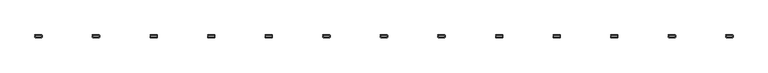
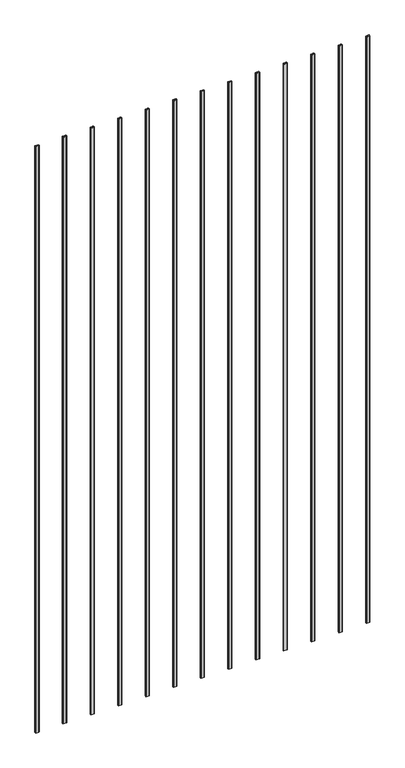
"""IFC4 building model written with IfcOpenShell, lengths in millimetres: fastener geometry, Knight-Wall-Systems_CI-Girt : CI-Girt™ (STANDARD)."""

import ifcopenshell
import ifcopenshell.guid

model = None  # the IFC model being written
_history = None  # IfcOwnerHistory: only IFC2X3 demands one
_inside = {}  # id of a spatial element -> (the spatial element, [elements in it])
_under = {}  # id of a project, library or spatial element -> (it, [spatial elements below it])
_declared = {}  # id of a project -> (the project, [libraries it declares])
_typed = {}  # id of a type object -> (the type object, [elements of that type])
_made_of = {}  # id of a material, layer set ... -> (it, [elements and type objects made of it])


def new_model(schema):
    """Start an empty IFC model of exactly this schema.

    Asked for "IFC4X3", IfcOpenShell would pick the latest addendum, in which some entities
    have other attributes; the version numbers below select the first issue.
    IFC2X3 requires an IfcOwnerHistory on every rooted entity: one is made here for all.
    """
    global model, _history
    if schema == "IFC4X3":
        model = ifcopenshell.file(schema_version=(4, 3, 0, 0))
    else:
        model = ifcopenshell.file(schema=schema)
    _inside.clear()
    _under.clear()
    _declared.clear()
    _typed.clear()
    _made_of.clear()
    _history = None
    if model.schema == "IFC2X3":
        org = make("IfcOrganization", Name="unknown")
        user = make(
            "IfcPersonAndOrganization",
            ThePerson=make("IfcPerson", FamilyName="unknown"),
            TheOrganization=org,
        )
        app = make(
            "IfcApplication",
            ApplicationDeveloper=org,
            Version="unknown",
            ApplicationFullName="unknown",
            ApplicationIdentifier="unknown",
        )
        _history = make(
            "IfcOwnerHistory",
            OwningUser=user,
            OwningApplication=app,
            ChangeAction="ADDED",
            CreationDate=0,
        )
    return model


def make(cls, **values):
    """One entity of the class cls with the attributes given. An attribute that is None is left unset."""
    return model.create_entity(
        cls, **{name: value for name, value in values.items() if value is not None}
    )


def rooted(cls, **values):
    """An entity with a GlobalId (a new one), such as an element, a storey or a relation."""
    return make(cls, GlobalId=ifcopenshell.guid.new(), OwnerHistory=_history, **values)


def si_unit(unit_type, name, prefix=None):
    """IfcSIUnit, for example si_unit("LENGTHUNIT", "METRE", prefix="MILLI")."""
    return make("IfcSIUnit", UnitType=unit_type, Prefix=prefix, Name=name)


def assignment(units):
    """IfcUnitAssignment: the units of a project."""
    return None if units is None else make("IfcUnitAssignment", Units=units)


def point(xyz):
    """IfcCartesianPoint."""
    return None if xyz is None else make("IfcCartesianPoint", Coordinates=xyz)


def direction(xyz):
    """IfcDirection."""
    return None if xyz is None else make("IfcDirection", DirectionRatios=xyz)


def frame(location, z_axis=None, x_axis=None):
    """IfcAxis2Placement3D, a coordinate frame: its origin and axes. An axis left out is left unset."""
    return make(
        "IfcAxis2Placement3D",
        Location=point(location),
        Axis=direction(z_axis),
        RefDirection=direction(x_axis),
    )


def frame_2d(location, x_axis=None):
    """IfcAxis2Placement2D, a coordinate frame in the plane: its origin and x axis."""
    return make(
        "IfcAxis2Placement2D", Location=point(location), RefDirection=direction(x_axis)
    )


def origin():
    """The frame at (0, 0, 0) with its axes left unset."""
    return frame((0.0, 0.0, 0.0))


def origin_with_axes():
    """The frame at (0, 0, 0) with the z axis (0, 0, 1) and the x axis (1, 0, 0) written out."""
    return frame((0.0, 0.0, 0.0), z_axis=(0.0, 0.0, 1.0), x_axis=(1.0, 0.0, 0.0))


def place(relative_to, where):
    """IfcLocalPlacement: puts the frame where relative to a parent placement (None: the world)."""
    return make(
        "IfcLocalPlacement", PlacementRelTo=relative_to, RelativePlacement=where
    )


def context(
    kind, dimensions, precision=None, world=None, true_north=None, identifier=None
):
    """IfcGeometricRepresentationContext, for example the 3D "Model" context."""
    return make(
        "IfcGeometricRepresentationContext",
        ContextIdentifier=identifier,
        ContextType=kind,
        CoordinateSpaceDimension=dimensions,
        Precision=precision,
        WorldCoordinateSystem=world,
        TrueNorth=true_north,
    )


def project(units=None, contexts=None):
    """IfcProject with its units and contexts."""
    return rooted(
        "IfcProject",
        Name="project",
        RepresentationContexts=contexts,
        UnitsInContext=assignment(units),
    )


def spatial(cls, under=None, at=None, **own):
    """A site, building, storey or space (cls), placed at a placement, below another one or the project."""
    s = rooted(cls, ObjectPlacement=at, **own)
    if under is not None:
        _under.setdefault(under.id(), (under, []))[1].append(s)
    return s


def polyline(points):
    """IfcPolyline through the points."""
    return make("IfcPolyline", Points=[point(p) for p in points])


def circle_curve(where, radius):
    """IfcCircle in the frame where."""
    return make("IfcCircle", Position=where, Radius=radius)


def trimmed(basis, trim1, trim2, sense, master):
    """IfcTrimmedCurve: the piece of a basis curve between two trims."""
    return make(
        "IfcTrimmedCurve",
        BasisCurve=basis,
        Trim1=trim1,
        Trim2=trim2,
        SenseAgreement=sense,
        MasterRepresentation=master,
    )


def segment(curve, same_sense, transition):
    """IfcCompositeCurveSegment."""
    return make(
        "IfcCompositeCurveSegment",
        Transition=transition,
        SameSense=same_sense,
        ParentCurve=curve,
    )


def composite_curve(segments, self_intersect=None):
    """IfcCompositeCurve: segments joined end to end."""
    return make("IfcCompositeCurve", Segments=segments, SelfIntersect=self_intersect)


def outline(outer, holes=None, kind="AREA"):
    """IfcArbitraryClosedProfileDef: a profile drawn as a closed curve; with holes, ...WithVoids."""
    if holes is None:
        return make("IfcArbitraryClosedProfileDef", ProfileType=kind, OuterCurve=outer)
    return make(
        "IfcArbitraryProfileDefWithVoids",
        ProfileType=kind,
        OuterCurve=outer,
        InnerCurves=holes,
    )


def extrude(swept, where, along, depth):
    """IfcExtrudedAreaSolid: the profile swept, set in the frame where, extruded along a direction by depth."""
    return make(
        "IfcExtrudedAreaSolid",
        SweptArea=swept,
        Position=where,
        ExtrudedDirection=direction(along),
        Depth=depth,
    )


def shape(context_of_items, identifier, shape_type, items):
    """IfcShapeRepresentation: the items that make up one representation, for example the "Body"."""
    return make(
        "IfcShapeRepresentation",
        ContextOfItems=context_of_items,
        RepresentationIdentifier=identifier,
        RepresentationType=shape_type,
        Items=items,
    )


def source(mapping_origin, context_of_items, identifier, shape_type, items):
    """IfcRepresentationMap: a shape defined once, which mapped items show again and again."""
    return make(
        "IfcRepresentationMap",
        MappingOrigin=mapping_origin,
        MappedRepresentation=shape(context_of_items, identifier, shape_type, items),
    )


def transform(
    local_origin,
    x_axis=None,
    y_axis=None,
    z_axis=None,
    scale=None,
    scale2=None,
    scale3=None,
    uniform=True,
):
    """IfcCartesianTransformationOperator3D, or its non-uniform kind. x_axis, y_axis, z_axis: its Axis1, 2, 3."""
    if uniform:
        return make(
            "IfcCartesianTransformationOperator3D",
            Axis1=direction(x_axis),
            Axis2=direction(y_axis),
            LocalOrigin=point(local_origin),
            Scale=scale,
            Axis3=direction(z_axis),
        )
    return make(
        "IfcCartesianTransformationOperator3DnonUniform",
        Axis1=direction(x_axis),
        Axis2=direction(y_axis),
        LocalOrigin=point(local_origin),
        Scale=scale,
        Axis3=direction(z_axis),
        Scale2=scale2,
        Scale3=scale3,
    )


def mapped(mapping_source, mapping_target):
    """IfcMappedItem: shows the shape of a source again, moved by a transform."""
    return make(
        "IfcMappedItem", MappingSource=mapping_source, MappingTarget=mapping_target
    )


def made_of(thing, what):
    """Note that an element or type object is made of a material, layer set ...; save() writes the relation."""
    if what is not None:
        _made_of.setdefault(what.id(), (what, []))[1].append(thing)
    return thing


def element(
    cls,
    number,
    at=None,
    inside=None,
    cuts=None,
    type_object=None,
    material=None,
    context=None,
    identifier="Body",
    shape_type=None,
    held_by="IfcProductDefinitionShape",
    body=None,
    shapes=None,
    **own,
):
    """One element of the class cls, such as IfcWall. Its Tag is "e" and its number.

    at: its placement. inside: the storey or other place that contains it. cuts: it is an
    opening in that element (IfcRelVoidsElement). A single representation is given by context,
    identifier, shape_type and body (its items); several are given by shapes. held_by: the class
    of the entity that holds the representations. save() writes the other relations.
    """
    e = rooted(cls, Tag="e%d" % number, ObjectPlacement=at, **own)
    if body is not None:
        shapes = [shape(context, identifier, shape_type, body)]
    if shapes is not None:
        e.Representation = make(held_by, Representations=shapes)
    if inside is not None:
        _inside.setdefault(inside.id(), (inside, []))[1].append(e)
    if cuts is not None:
        rooted(
            "IfcRelVoidsElement", RelatingBuildingElement=cuts, RelatedOpeningElement=e
        )
    if type_object is not None:
        _typed.setdefault(type_object.id(), (type_object, []))[1].append(e)
    return made_of(e, material)


def aggregate(whole, parts):
    """IfcRelAggregates: a whole, such as a stair, and the parts it consists of."""
    return rooted("IfcRelAggregates", RelatingObject=whole, RelatedObjects=parts)


def save(model, path):
    """Write the relations noted so far, then the file.

    IfcRelAggregates (storeys below a building ...), IfcRelContainedInSpatialStructure (elements
    in a storey), IfcRelDefinesByType, IfcRelAssociatesMaterial and IfcRelDeclares: one each for
    every whole, place, type object, material and project.
    """
    for whole, parts in _under.values():
        aggregate(whole, parts)
    for where, things in _inside.values():
        rooted(
            "IfcRelContainedInSpatialStructure",
            RelatedElements=things,
            RelatingStructure=where,
        )
    for kind, things in _typed.values():
        rooted("IfcRelDefinesByType", RelatedObjects=things, RelatingType=kind)
    for what, things in _made_of.values():
        rooted("IfcRelAssociatesMaterial", RelatedObjects=things, RelatingMaterial=what)
    for by, libraries in _declared.values():
        rooted("IfcRelDeclares", RelatingContext=by, RelatedDefinitions=libraries)
    model.write(path)


def fastener_92f4360e(model_context):
    return source(origin(), model_context, "Body", "SweptSolid", [
        extrude(outline(composite_curve([segment(trimmed(circle_curve(frame_2d((4518.025, 3.175)), 3.175), [point((4521.2, 3.175))], [point((4518.025, 0.0))], False, "CARTESIAN"), True, "CONTINUOUS"), segment(polyline([(4518.025, 0.0), (4473.575, 0.0)]), True, "CONTINUOUS"), segment(trimmed(circle_curve(frame_2d((4473.575, 3.175)), 3.175), [point((4473.575, 0.0))], [point((4470.4, 3.175))], False, "CARTESIAN"), True, "CONTINUOUS"), segment(polyline([(4470.4, 3.175), (4470.4, 9.525), (4471.9875, 9.525), (4471.9875, 3.175)]), True, "CONTINUOUS"), segment(trimmed(circle_curve(frame_2d((4473.575, 3.175)), 1.5875), [point((4471.9875, 3.175))], [point((4473.575, 1.5875))], True, "CARTESIAN"), True, "CONTINUOUS"), segment(polyline([(4473.575, 1.5875), (4518.025, 1.5875)]), True, "CONTINUOUS"), segment(trimmed(circle_curve(frame_2d((4518.025, 3.175)), 1.5875), [point((4518.025, 1.5875))], [point((4519.6125, 3.175))], True, "CARTESIAN"), True, "CONTINUOUS"), segment(polyline([(4519.6125, 3.175), (4519.6125, 15.875)]), True, "CONTINUOUS"), segment(trimmed(circle_curve(frame_2d((4518.025, 15.875)), 1.5875), [point((4519.6125, 15.875))], [point((4518.025, 17.4625))], True, "CARTESIAN"), True, "CONTINUOUS"), segment(polyline([(4518.025, 17.4625), (4470.4, 17.4625), (4470.4, 19.05), (4518.025, 19.05)]), True, "CONTINUOUS"), segment(trimmed(circle_curve(frame_2d((4518.025, 15.875)), 3.175), [point((4518.025, 19.05))], [point((4521.2, 15.875))], False, "CARTESIAN"), True, "CONTINUOUS"), segment(polyline([(4521.2, 15.875), (4521.2, 3.175)]), True, "CONTINUOUS")], self_intersect=False)), origin_with_axes(), (0.0, 0.0, 1.0), 9144.0),
        extrude(outline(composite_curve([segment(trimmed(circle_curve(frame_2d((4111.625, 3.175)), 3.175), [point((4114.8, 3.175))], [point((4111.625, 0.0))], False, "CARTESIAN"), True, "CONTINUOUS"), segment(polyline([(4111.625, 0.0), (4067.175, 0.0)]), True, "CONTINUOUS"), segment(trimmed(circle_curve(frame_2d((4067.175, 3.175)), 3.175), [point((4067.175, 0.0))], [point((4064.0, 3.175))], False, "CARTESIAN"), True, "CONTINUOUS"), segment(polyline([(4064.0, 3.175), (4064.0, 9.525), (4065.5875, 9.525), (4065.5875, 3.175)]), True, "CONTINUOUS"), segment(trimmed(circle_curve(frame_2d((4067.175, 3.175)), 1.5875), [point((4065.5875, 3.175))], [point((4067.175, 1.5875))], True, "CARTESIAN"), True, "CONTINUOUS"), segment(polyline([(4067.175, 1.5875), (4111.625, 1.5875)]), True, "CONTINUOUS"), segment(trimmed(circle_curve(frame_2d((4111.625, 3.175)), 1.5875), [point((4111.625, 1.5875))], [point((4113.2125, 3.175))], True, "CARTESIAN"), True, "CONTINUOUS"), segment(polyline([(4113.2125, 3.175), (4113.2125, 15.875)]), True, "CONTINUOUS"), segment(trimmed(circle_curve(frame_2d((4111.625, 15.875)), 1.5875), [point((4113.2125, 15.875))], [point((4111.625, 17.4625))], True, "CARTESIAN"), True, "CONTINUOUS"), segment(polyline([(4111.625, 17.4625), (4064.0, 17.4625), (4064.0, 19.05), (4111.625, 19.05)]), True, "CONTINUOUS"), segment(trimmed(circle_curve(frame_2d((4111.625, 15.875)), 3.175), [point((4111.625, 19.05))], [point((4114.8, 15.875))], False, "CARTESIAN"), True, "CONTINUOUS"), segment(polyline([(4114.8, 15.875), (4114.8, 3.175)]), True, "CONTINUOUS")], self_intersect=False)), origin_with_axes(), (0.0, 0.0, 1.0), 9144.0),
        extrude(outline(composite_curve([segment(trimmed(circle_curve(frame_2d((3705.225, 3.175)), 3.175), [point((3708.4, 3.175))], [point((3705.225, 0.0))], False, "CARTESIAN"), True, "CONTINUOUS"), segment(polyline([(3705.225, 0.0), (3660.775, 0.0)]), True, "CONTINUOUS"), segment(trimmed(circle_curve(frame_2d((3660.775, 3.175)), 3.175), [point((3660.775, 0.0))], [point((3657.6, 3.175))], False, "CARTESIAN"), True, "CONTINUOUS"), segment(polyline([(3657.6, 3.175), (3657.6, 9.525), (3659.1875, 9.525), (3659.1875, 3.175)]), True, "CONTINUOUS"), segment(trimmed(circle_curve(frame_2d((3660.775, 3.175)), 1.5875), [point((3659.1875, 3.175))], [point((3660.775, 1.5875))], True, "CARTESIAN"), True, "CONTINUOUS"), segment(polyline([(3660.775, 1.5875), (3705.225, 1.5875)]), True, "CONTINUOUS"), segment(trimmed(circle_curve(frame_2d((3705.225, 3.175)), 1.5875), [point((3705.225, 1.5875))], [point((3706.8125, 3.175))], True, "CARTESIAN"), True, "CONTINUOUS"), segment(polyline([(3706.8125, 3.175), (3706.8125, 15.875)]), True, "CONTINUOUS"), segment(trimmed(circle_curve(frame_2d((3705.225, 15.875)), 1.5875), [point((3706.8125, 15.875))], [point((3705.225, 17.4625))], True, "CARTESIAN"), True, "CONTINUOUS"), segment(polyline([(3705.225, 17.4625), (3657.6, 17.4625), (3657.6, 19.05), (3705.225, 19.05)]), True, "CONTINUOUS"), segment(trimmed(circle_curve(frame_2d((3705.225, 15.875)), 3.175), [point((3705.225, 19.05))], [point((3708.4, 15.875))], False, "CARTESIAN"), True, "CONTINUOUS"), segment(polyline([(3708.4, 15.875), (3708.4, 3.175)]), True, "CONTINUOUS")], self_intersect=False)), origin_with_axes(), (0.0, 0.0, 1.0), 9144.0),
        extrude(outline(composite_curve([segment(trimmed(circle_curve(frame_2d((3298.825, 3.175)), 3.175), [point((3302.0, 3.175))], [point((3298.825, 0.0))], False, "CARTESIAN"), True, "CONTINUOUS"), segment(polyline([(3298.825, 0.0), (3254.375, 0.0)]), True, "CONTINUOUS"), segment(trimmed(circle_curve(frame_2d((3254.375, 3.175)), 3.175), [point((3254.375, 0.0))], [point((3251.2, 3.175))], False, "CARTESIAN"), True, "CONTINUOUS"), segment(polyline([(3251.2, 3.175), (3251.2, 9.525), (3252.7875, 9.525), (3252.7875, 3.175)]), True, "CONTINUOUS"), segment(trimmed(circle_curve(frame_2d((3254.375, 3.175)), 1.5875), [point((3252.7875, 3.175))], [point((3254.375, 1.5875))], True, "CARTESIAN"), True, "CONTINUOUS"), segment(polyline([(3254.375, 1.5875), (3298.825, 1.5875)]), True, "CONTINUOUS"), segment(trimmed(circle_curve(frame_2d((3298.825, 3.175)), 1.5875), [point((3298.825, 1.5875))], [point((3300.4125, 3.175))], True, "CARTESIAN"), True, "CONTINUOUS"), segment(polyline([(3300.4125, 3.175), (3300.4125, 15.875)]), True, "CONTINUOUS"), segment(trimmed(circle_curve(frame_2d((3298.825, 15.875)), 1.5875), [point((3300.4125, 15.875))], [point((3298.825, 17.4625))], True, "CARTESIAN"), True, "CONTINUOUS"), segment(polyline([(3298.825, 17.4625), (3251.2, 17.4625), (3251.2, 19.05), (3298.825, 19.05)]), True, "CONTINUOUS"), segment(trimmed(circle_curve(frame_2d((3298.825, 15.875)), 3.175), [point((3298.825, 19.05))], [point((3302.0, 15.875))], False, "CARTESIAN"), True, "CONTINUOUS"), segment(polyline([(3302.0, 15.875), (3302.0, 3.175)]), True, "CONTINUOUS")], self_intersect=False)), origin_with_axes(), (0.0, 0.0, 1.0), 9144.0),
        extrude(outline(composite_curve([segment(trimmed(circle_curve(frame_2d((2892.425, 3.175)), 3.175), [point((2895.6, 3.175))], [point((2892.425, 0.0))], False, "CARTESIAN"), True, "CONTINUOUS"), segment(polyline([(2892.425, 0.0), (2847.975, 0.0)]), True, "CONTINUOUS"), segment(trimmed(circle_curve(frame_2d((2847.975, 3.175)), 3.175), [point((2847.975, 0.0))], [point((2844.8, 3.175))], False, "CARTESIAN"), True, "CONTINUOUS"), segment(polyline([(2844.8, 3.175), (2844.8, 9.525), (2846.3875, 9.525), (2846.3875, 3.175)]), True, "CONTINUOUS"), segment(trimmed(circle_curve(frame_2d((2847.975, 3.175)), 1.5875), [point((2846.3875, 3.175))], [point((2847.975, 1.5875))], True, "CARTESIAN"), True, "CONTINUOUS"), segment(polyline([(2847.975, 1.5875), (2892.425, 1.5875)]), True, "CONTINUOUS"), segment(trimmed(circle_curve(frame_2d((2892.425, 3.175)), 1.5875), [point((2892.425, 1.5875))], [point((2894.0125, 3.175))], True, "CARTESIAN"), True, "CONTINUOUS"), segment(polyline([(2894.0125, 3.175), (2894.0125, 15.875)]), True, "CONTINUOUS"), segment(trimmed(circle_curve(frame_2d((2892.425, 15.875)), 1.5875), [point((2894.0125, 15.875))], [point((2892.425, 17.4625))], True, "CARTESIAN"), True, "CONTINUOUS"), segment(polyline([(2892.425, 17.4625), (2844.8, 17.4625), (2844.8, 19.05), (2892.425, 19.05)]), True, "CONTINUOUS"), segment(trimmed(circle_curve(frame_2d((2892.425, 15.875)), 3.175), [point((2892.425, 19.05))], [point((2895.6, 15.875))], False, "CARTESIAN"), True, "CONTINUOUS"), segment(polyline([(2895.6, 15.875), (2895.6, 3.175)]), True, "CONTINUOUS")], self_intersect=False)), origin_with_axes(), (0.0, 0.0, 1.0), 9144.0),
        extrude(outline(composite_curve([segment(trimmed(circle_curve(frame_2d((2486.025, 3.175)), 3.175), [point((2489.2, 3.175))], [point((2486.025, 0.0))], False, "CARTESIAN"), True, "CONTINUOUS"), segment(polyline([(2486.025, 0.0), (2441.575, 0.0)]), True, "CONTINUOUS"), segment(trimmed(circle_curve(frame_2d((2441.575, 3.175)), 3.175), [point((2441.575, 0.0))], [point((2438.4, 3.175))], False, "CARTESIAN"), True, "CONTINUOUS"), segment(polyline([(2438.4, 3.175), (2438.4, 9.525), (2439.9875, 9.525), (2439.9875, 3.175)]), True, "CONTINUOUS"), segment(trimmed(circle_curve(frame_2d((2441.575, 3.175)), 1.5875), [point((2439.9875, 3.175))], [point((2441.575, 1.5875))], True, "CARTESIAN"), True, "CONTINUOUS"), segment(polyline([(2441.575, 1.5875), (2486.025, 1.5875)]), True, "CONTINUOUS"), segment(trimmed(circle_curve(frame_2d((2486.025, 3.175)), 1.5875), [point((2486.025, 1.5875))], [point((2487.6125, 3.175))], True, "CARTESIAN"), True, "CONTINUOUS"), segment(polyline([(2487.6125, 3.175), (2487.6125, 15.875)]), True, "CONTINUOUS"), segment(trimmed(circle_curve(frame_2d((2486.025, 15.875)), 1.5875), [point((2487.6125, 15.875))], [point((2486.025, 17.4625))], True, "CARTESIAN"), True, "CONTINUOUS"), segment(polyline([(2486.025, 17.4625), (2438.4, 17.4625), (2438.4, 19.05), (2486.025, 19.05)]), True, "CONTINUOUS"), segment(trimmed(circle_curve(frame_2d((2486.025, 15.875)), 3.175), [point((2486.025, 19.05))], [point((2489.2, 15.875))], False, "CARTESIAN"), True, "CONTINUOUS"), segment(polyline([(2489.2, 15.875), (2489.2, 3.175)]), True, "CONTINUOUS")], self_intersect=False)), origin_with_axes(), (0.0, 0.0, 1.0), 9144.0),
        extrude(outline(composite_curve([segment(trimmed(circle_curve(frame_2d((2079.625, 3.175)), 3.175), [point((2082.8, 3.175))], [point((2079.625, 0.0))], False, "CARTESIAN"), True, "CONTINUOUS"), segment(polyline([(2079.625, 0.0), (2035.175, 0.0)]), True, "CONTINUOUS"), segment(trimmed(circle_curve(frame_2d((2035.175, 3.175)), 3.175), [point((2035.175, 0.0))], [point((2032.0, 3.175))], False, "CARTESIAN"), True, "CONTINUOUS"), segment(polyline([(2032.0, 3.175), (2032.0, 9.525), (2033.5875, 9.525), (2033.5875, 3.175)]), True, "CONTINUOUS"), segment(trimmed(circle_curve(frame_2d((2035.175, 3.175)), 1.5875), [point((2033.5875, 3.175))], [point((2035.175, 1.5875))], True, "CARTESIAN"), True, "CONTINUOUS"), segment(polyline([(2035.175, 1.5875), (2079.625, 1.5875)]), True, "CONTINUOUS"), segment(trimmed(circle_curve(frame_2d((2079.625, 3.175)), 1.5875), [point((2079.625, 1.5875))], [point((2081.2125, 3.175))], True, "CARTESIAN"), True, "CONTINUOUS"), segment(polyline([(2081.2125, 3.175), (2081.2125, 15.875)]), True, "CONTINUOUS"), segment(trimmed(circle_curve(frame_2d((2079.625, 15.875)), 1.5875), [point((2081.2125, 15.875))], [point((2079.625, 17.4625))], True, "CARTESIAN"), True, "CONTINUOUS"), segment(polyline([(2079.625, 17.4625), (2032.0, 17.4625), (2032.0, 19.05), (2079.625, 19.05)]), True, "CONTINUOUS"), segment(trimmed(circle_curve(frame_2d((2079.625, 15.875)), 3.175), [point((2079.625, 19.05))], [point((2082.8, 15.875))], False, "CARTESIAN"), True, "CONTINUOUS"), segment(polyline([(2082.8, 15.875), (2082.8, 3.175)]), True, "CONTINUOUS")], self_intersect=False)), origin_with_axes(), (0.0, 0.0, 1.0), 9144.0),
        extrude(outline(composite_curve([segment(trimmed(circle_curve(frame_2d((1673.225, 3.175)), 3.175), [point((1676.4, 3.175))], [point((1673.225, 0.0))], False, "CARTESIAN"), True, "CONTINUOUS"), segment(polyline([(1673.225, 0.0), (1628.775, 0.0)]), True, "CONTINUOUS"), segment(trimmed(circle_curve(frame_2d((1628.775, 3.175)), 3.175), [point((1628.775, 0.0))], [point((1625.6, 3.175))], False, "CARTESIAN"), True, "CONTINUOUS"), segment(polyline([(1625.6, 3.175), (1625.6, 9.525), (1627.1875, 9.525), (1627.1875, 3.175)]), True, "CONTINUOUS"), segment(trimmed(circle_curve(frame_2d((1628.775, 3.175)), 1.5875), [point((1627.1875, 3.175))], [point((1628.775, 1.5875))], True, "CARTESIAN"), True, "CONTINUOUS"), segment(polyline([(1628.775, 1.5875), (1673.225, 1.5875)]), True, "CONTINUOUS"), segment(trimmed(circle_curve(frame_2d((1673.225, 3.175)), 1.5875), [point((1673.225, 1.5875))], [point((1674.8125, 3.175))], True, "CARTESIAN"), True, "CONTINUOUS"), segment(polyline([(1674.8125, 3.175), (1674.8125, 15.875)]), True, "CONTINUOUS"), segment(trimmed(circle_curve(frame_2d((1673.225, 15.875)), 1.5875), [point((1674.8125, 15.875))], [point((1673.225, 17.4625))], True, "CARTESIAN"), True, "CONTINUOUS"), segment(polyline([(1673.225, 17.4625), (1625.6, 17.4625), (1625.6, 19.05), (1673.225, 19.05)]), True, "CONTINUOUS"), segment(trimmed(circle_curve(frame_2d((1673.225, 15.875)), 3.175), [point((1673.225, 19.05))], [point((1676.4, 15.875))], False, "CARTESIAN"), True, "CONTINUOUS"), segment(polyline([(1676.4, 15.875), (1676.4, 3.175)]), True, "CONTINUOUS")], self_intersect=False)), origin_with_axes(), (0.0, 0.0, 1.0), 9144.0),
        extrude(outline(composite_curve([segment(trimmed(circle_curve(frame_2d((1266.825, 3.175)), 3.175), [point((1270.0, 3.175))], [point((1266.825, 0.0))], False, "CARTESIAN"), True, "CONTINUOUS"), segment(polyline([(1266.825, 0.0), (1222.375, 0.0)]), True, "CONTINUOUS"), segment(trimmed(circle_curve(frame_2d((1222.375, 3.175)), 3.175), [point((1222.375, 0.0))], [point((1219.2, 3.175))], False, "CARTESIAN"), True, "CONTINUOUS"), segment(polyline([(1219.2, 3.175), (1219.2, 9.525), (1220.7875, 9.525), (1220.7875, 3.175)]), True, "CONTINUOUS"), segment(trimmed(circle_curve(frame_2d((1222.375, 3.175)), 1.5875), [point((1220.7875, 3.175))], [point((1222.375, 1.5875))], True, "CARTESIAN"), True, "CONTINUOUS"), segment(polyline([(1222.375, 1.5875), (1266.825, 1.5875)]), True, "CONTINUOUS"), segment(trimmed(circle_curve(frame_2d((1266.825, 3.175)), 1.5875), [point((1266.825, 1.5875))], [point((1268.4125, 3.175))], True, "CARTESIAN"), True, "CONTINUOUS"), segment(polyline([(1268.4125, 3.175), (1268.4125, 15.875)]), True, "CONTINUOUS"), segment(trimmed(circle_curve(frame_2d((1266.825, 15.875)), 1.5875), [point((1268.4125, 15.875))], [point((1266.825, 17.4625))], True, "CARTESIAN"), True, "CONTINUOUS"), segment(polyline([(1266.825, 17.4625), (1219.2, 17.4625), (1219.2, 19.05), (1266.825, 19.05)]), True, "CONTINUOUS"), segment(trimmed(circle_curve(frame_2d((1266.825, 15.875)), 3.175), [point((1266.825, 19.05))], [point((1270.0, 15.875))], False, "CARTESIAN"), True, "CONTINUOUS"), segment(polyline([(1270.0, 15.875), (1270.0, 3.175)]), True, "CONTINUOUS")], self_intersect=False)), origin_with_axes(), (0.0, 0.0, 1.0), 9144.0),
        extrude(outline(composite_curve([segment(trimmed(circle_curve(frame_2d((860.425, 3.175)), 3.175), [point((863.6, 3.175))], [point((860.425, 0.0))], False, "CARTESIAN"), True, "CONTINUOUS"), segment(polyline([(860.425, 0.0), (815.975, 0.0)]), True, "CONTINUOUS"), segment(trimmed(circle_curve(frame_2d((815.975, 3.175)), 3.175), [point((815.975, 0.0))], [point((812.8, 3.175))], False, "CARTESIAN"), True, "CONTINUOUS"), segment(polyline([(812.8, 3.175), (812.8, 9.525), (814.3875, 9.525), (814.3875, 3.175)]), True, "CONTINUOUS"), segment(trimmed(circle_curve(frame_2d((815.975, 3.175)), 1.5875), [point((814.3875, 3.175))], [point((815.975, 1.5875))], True, "CARTESIAN"), True, "CONTINUOUS"), segment(polyline([(815.975, 1.5875), (860.425, 1.5875)]), True, "CONTINUOUS"), segment(trimmed(circle_curve(frame_2d((860.425, 3.175)), 1.5875), [point((860.425, 1.5875))], [point((862.0125, 3.175))], True, "CARTESIAN"), True, "CONTINUOUS"), segment(polyline([(862.0125, 3.175), (862.0125, 15.875)]), True, "CONTINUOUS"), segment(trimmed(circle_curve(frame_2d((860.425, 15.875)), 1.5875), [point((862.0125, 15.875))], [point((860.425, 17.4625))], True, "CARTESIAN"), True, "CONTINUOUS"), segment(polyline([(860.425, 17.4625), (812.8, 17.4625), (812.8, 19.05), (860.425, 19.05)]), True, "CONTINUOUS"), segment(trimmed(circle_curve(frame_2d((860.425, 15.875)), 3.175), [point((860.425, 19.05))], [point((863.6, 15.875))], False, "CARTESIAN"), True, "CONTINUOUS"), segment(polyline([(863.6, 15.875), (863.6, 3.175)]), True, "CONTINUOUS")], self_intersect=False)), origin_with_axes(), (0.0, 0.0, 1.0), 9144.0),
        extrude(outline(composite_curve([segment(trimmed(circle_curve(frame_2d((454.025, 3.175)), 3.175), [point((457.2, 3.175))], [point((454.025, 0.0))], False, "CARTESIAN"), True, "CONTINUOUS"), segment(polyline([(454.025, 0.0), (409.575, 0.0)]), True, "CONTINUOUS"), segment(trimmed(circle_curve(frame_2d((409.575, 3.175)), 3.175), [point((409.575, 0.0))], [point((406.4, 3.175))], False, "CARTESIAN"), True, "CONTINUOUS"), segment(polyline([(406.4, 3.175), (406.4, 9.525), (407.9875, 9.525), (407.9875, 3.175)]), True, "CONTINUOUS"), segment(trimmed(circle_curve(frame_2d((409.575, 3.175)), 1.5875), [point((407.9875, 3.175))], [point((409.575, 1.5875))], True, "CARTESIAN"), True, "CONTINUOUS"), segment(polyline([(409.575, 1.5875), (454.025, 1.5875)]), True, "CONTINUOUS"), segment(trimmed(circle_curve(frame_2d((454.025, 3.175)), 1.5875), [point((454.025, 1.5875))], [point((455.6125, 3.175))], True, "CARTESIAN"), True, "CONTINUOUS"), segment(polyline([(455.6125, 3.175), (455.6125, 15.875)]), True, "CONTINUOUS"), segment(trimmed(circle_curve(frame_2d((454.025, 15.875)), 1.5875), [point((455.6125, 15.875))], [point((454.025, 17.4625))], True, "CARTESIAN"), True, "CONTINUOUS"), segment(polyline([(454.025, 17.4625), (406.4, 17.4625), (406.4, 19.05), (454.025, 19.05)]), True, "CONTINUOUS"), segment(trimmed(circle_curve(frame_2d((454.025, 15.875)), 3.175), [point((454.025, 19.05))], [point((457.2, 15.875))], False, "CARTESIAN"), True, "CONTINUOUS"), segment(polyline([(457.2, 15.875), (457.2, 3.175)]), True, "CONTINUOUS")], self_intersect=False)), origin_with_axes(), (0.0, 0.0, 1.0), 9144.0),
        extrude(outline(composite_curve([segment(trimmed(circle_curve(frame_2d((4924.425, 3.175)), 3.175), [point((4927.6, 3.175))], [point((4924.425, 0.0))], False, "CARTESIAN"), True, "CONTINUOUS"), segment(polyline([(4924.425, 0.0), (4879.975, 0.0)]), True, "CONTINUOUS"), segment(trimmed(circle_curve(frame_2d((4879.975, 3.175)), 3.175), [point((4879.975, 0.0))], [point((4876.8, 3.175))], False, "CARTESIAN"), True, "CONTINUOUS"), segment(polyline([(4876.8, 3.175), (4876.8, 9.525), (4878.3875, 9.525), (4878.3875, 3.175)]), True, "CONTINUOUS"), segment(trimmed(circle_curve(frame_2d((4879.975, 3.175)), 1.5875), [point((4878.3875, 3.175))], [point((4879.975, 1.5875))], True, "CARTESIAN"), True, "CONTINUOUS"), segment(polyline([(4879.975, 1.5875), (4924.425, 1.5875)]), True, "CONTINUOUS"), segment(trimmed(circle_curve(frame_2d((4924.425, 3.175)), 1.5875), [point((4924.425, 1.5875))], [point((4926.0125, 3.175))], True, "CARTESIAN"), True, "CONTINUOUS"), segment(polyline([(4926.0125, 3.175), (4926.0125, 15.875)]), True, "CONTINUOUS"), segment(trimmed(circle_curve(frame_2d((4924.425, 15.875)), 1.5875), [point((4926.0125, 15.875))], [point((4924.425, 17.4625))], True, "CARTESIAN"), True, "CONTINUOUS"), segment(polyline([(4924.425, 17.4625), (4876.8, 17.4625), (4876.8, 19.05), (4924.425, 19.05)]), True, "CONTINUOUS"), segment(trimmed(circle_curve(frame_2d((4924.425, 15.875)), 3.175), [point((4924.425, 19.05))], [point((4927.6, 15.875))], False, "CARTESIAN"), True, "CONTINUOUS"), segment(polyline([(4927.6, 15.875), (4927.6, 3.175)]), True, "CONTINUOUS")], self_intersect=False)), origin_with_axes(), (0.0, 0.0, 1.0), 9144.0),
        extrude(outline(composite_curve([segment(trimmed(circle_curve(frame_2d((47.625, 3.175)), 3.175), [point((50.8, 3.175))], [point((47.625, 0.0))], False, "CARTESIAN"), True, "CONTINUOUS"), segment(polyline([(47.625, 0.0), (3.175, 0.0)]), True, "CONTINUOUS"), segment(trimmed(circle_curve(frame_2d((3.175, 3.175)), 3.175), [point((3.175, 0.0))], [point((0.0, 3.175))], False, "CARTESIAN"), True, "CONTINUOUS"), segment(polyline([(0.0, 3.175), (0.0, 9.525), (1.5875, 9.525), (1.5875, 3.175)]), True, "CONTINUOUS"), segment(trimmed(circle_curve(frame_2d((3.175, 3.175)), 1.5875), [point((1.5875, 3.175))], [point((3.175, 1.5875))], True, "CARTESIAN"), True, "CONTINUOUS"), segment(polyline([(3.175, 1.5875), (47.625, 1.5875)]), True, "CONTINUOUS"), segment(trimmed(circle_curve(frame_2d((47.625, 3.175)), 1.5875), [point((47.625, 1.5875))], [point((49.2125, 3.175))], True, "CARTESIAN"), True, "CONTINUOUS"), segment(polyline([(49.2125, 3.175), (49.2125, 15.875)]), True, "CONTINUOUS"), segment(trimmed(circle_curve(frame_2d((47.625, 15.875)), 1.5875), [point((49.2125, 15.875))], [point((47.625, 17.4625))], True, "CARTESIAN"), True, "CONTINUOUS"), segment(polyline([(47.625, 17.4625), (0.0, 17.4625), (0.0, 19.05), (47.625, 19.05)]), True, "CONTINUOUS"), segment(trimmed(circle_curve(frame_2d((47.625, 15.875)), 3.175), [point((47.625, 19.05))], [point((50.8, 15.875))], False, "CARTESIAN"), True, "CONTINUOUS"), segment(polyline([(50.8, 15.875), (50.8, 3.175)]), True, "CONTINUOUS")], self_intersect=False)), origin_with_axes(), (0.0, 0.0, 1.0), 9144.0),
    ])


if __name__ == "__main__":
    model = new_model("IFC4")
    model_context = context("Model", 3, world=origin())
    ifc_project = project(units=[si_unit("LENGTHUNIT", "METRE", prefix="MILLI")], contexts=[model_context])
    site = spatial("IfcSite", under=ifc_project)
    building = spatial("IfcBuilding", under=site)
    placement = place(None, origin())
    fastener_shape = fastener_92f4360e(model_context)
    element("IfcFastener", 1, ObjectType="Knight-Wall-Systems_CI-Girt : CI-Girt™ (STANDARD)", at=placement, inside=building, context=model_context, shape_type="MappedRepresentation", body=[
        mapped(fastener_shape, transform((0.0, 0.0, 0.0), x_axis=(1.0, 0.0, 0.0), y_axis=(0.0, 1.0, 0.0), z_axis=(0.0, 0.0, 1.0))),
    ])
    save(model, "model.ifc")
